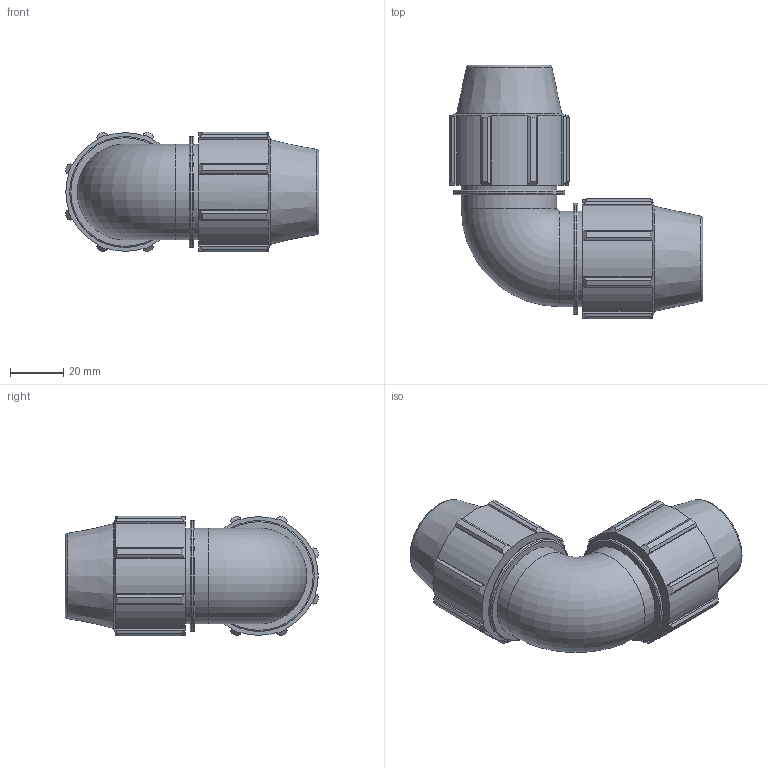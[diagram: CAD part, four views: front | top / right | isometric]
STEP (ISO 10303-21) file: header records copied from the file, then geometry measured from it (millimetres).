
FILE_DESCRIPTION(/* description */ ('PLASSON 90° ELBOW 1/2'''' - 1/2'''''),/* implementation_level */ '2;1');
FILE_NAME(/* name */ 'C:\Dropbox\KIMPROJECTS-Inventor 2019\99-16-3568-Processing Inch\ASTM Compression 2021\0705M0\0705M0005.ipt.stp',/* time_stamp */ '2021-08-26T12:31:49+03:00',/* author */ ('KIM'),/* organization */ (''),/* preprocessor_version */ 'ST-DEVELOPER v17.2',/* originating_system */ 'Autodesk Inventor 2019',/* authorisation */ '');
FILE_SCHEMA (('AUTOMOTIVE_DESIGN { 1 0 10303 214 3 1 1 }'));
Length unit declared in the file: inch
Products named in the file (1): 0705M0005
Bounding box: 95.48 x 95.48 x 45.17 mm (x, y, z)
Volume: 125336 mm3; surface area: 31320.4 mm2
Topology: 1 solids, 1 shells, 148 faces, 435 edges, 299 vertices
Faces by surface type: plane 76, cylinder 40, cone 24, torus 8
Full cylindrical faces by diameter (mm): 21.2 x2, 36.005 x4, 41.765 x2
Entity records: 5165 total; most frequent: CARTESIAN_POINT 1011, ORIENTED_EDGE 870, DIRECTION 832, EDGE_CURVE 435, AXIS2_PLACEMENT_3D 312, VERTEX_POINT 299, LINE 208, VECTOR 208
